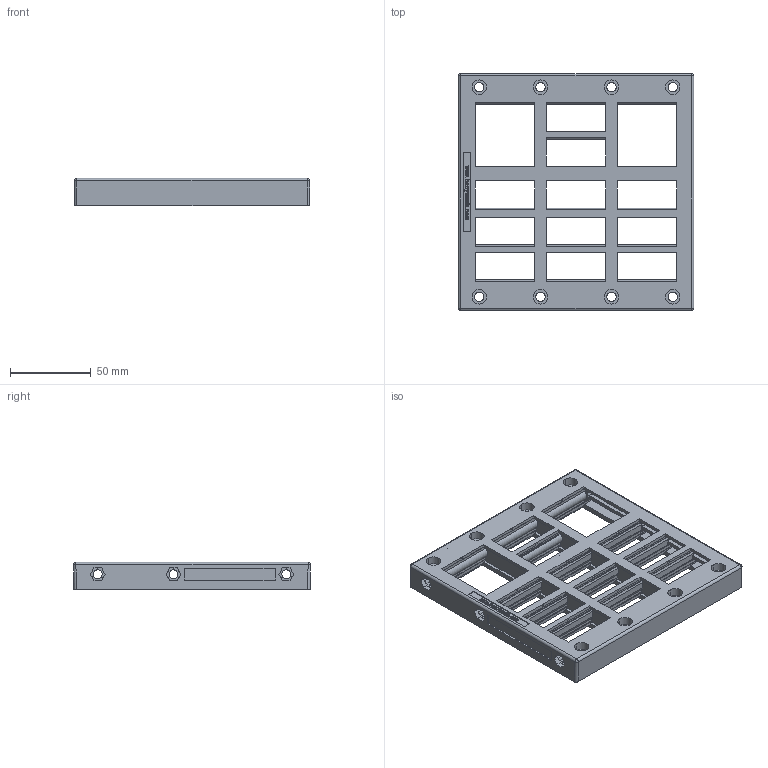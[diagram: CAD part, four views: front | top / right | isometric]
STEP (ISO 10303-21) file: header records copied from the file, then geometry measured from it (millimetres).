
FILE_DESCRIPTION((''),'2;1');
FILE_NAME('N10021','2025-06-06T10:28:19',('lyj'),(''),'CREO PARAMETRIC BY PTC INC, 2019010','CREO PARAMETRIC BY PTC INC, 2019010','');
FILE_SCHEMA(('CONFIG_CONTROL_DESIGN'));
Products named in the file (1): N10021
Bounding box: 146 x 147 x 17 mm (x, y, z)
Volume: 131040 mm3; surface area: 88608.8 mm2
Topology: 14 solids, 14 shells, 1590 faces, 4637 edges, 3076 vertices
Faces by surface type: plane 983, cylinder 293, extrusion 106, cone 86, bspline 56, torus 38, sphere 28
Entity records: 56483 total; most frequent: CARTESIAN_POINT 15153, ORIENTED_EDGE 9218, DIRECTION 7569, EDGE_CURVE 4609, VECTOR 3417, LINE 3311, VERTEX_POINT 3076, AXIS2_PLACEMENT_3D 2076
